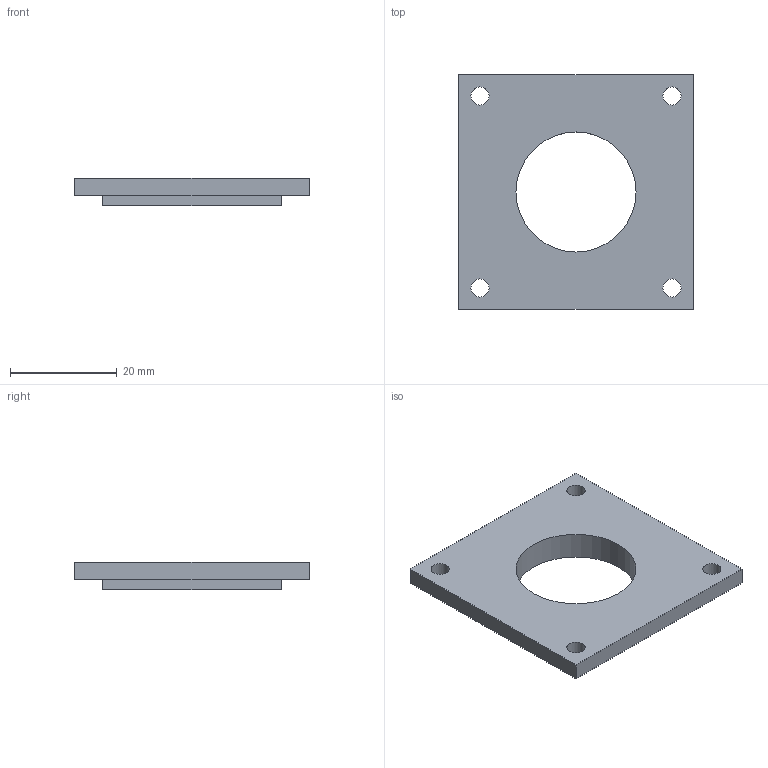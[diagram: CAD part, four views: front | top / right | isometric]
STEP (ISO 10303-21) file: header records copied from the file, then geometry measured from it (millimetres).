
FILE_DESCRIPTION(('Open CASCADE Model'),'2;1');
FILE_NAME('Open CASCADE Shape Model','2026-11-19T15:07:55',('Author'),( 'Open CASCADE'),'Open CASCADE STEP processor 8.0','Open CASCADE 8.0' ,'Unknown');
FILE_SCHEMA(('AUTOMOTIVE_DESIGN { 1 0 10303 214 1 1 1 1 }'));
Length unit declared in the file: millimetre
Products named in the file (1): Open CASCADE STEP translator 8.0 10
Bounding box: 44 x 44 x 5.2 mm (x, y, z)
Volume: 6242.5 mm3; surface area: 4338.8 mm2
Topology: 1 solids, 1 shells, 16 faces, 39 edges, 26 vertices
Faces by surface type: plane 11, cylinder 5
Full cylindrical faces by diameter (mm): 3.4 x4, 22.5 x1
Entity records: 1010 total; most frequent: DIRECTION 161, CARTESIAN_POINT 160, LINE 97, VECTOR 97, ORIENTED_EDGE 78, PCURVE 78, DEFINITIONAL_REPRESENTATION 78, EDGE_CURVE 39
